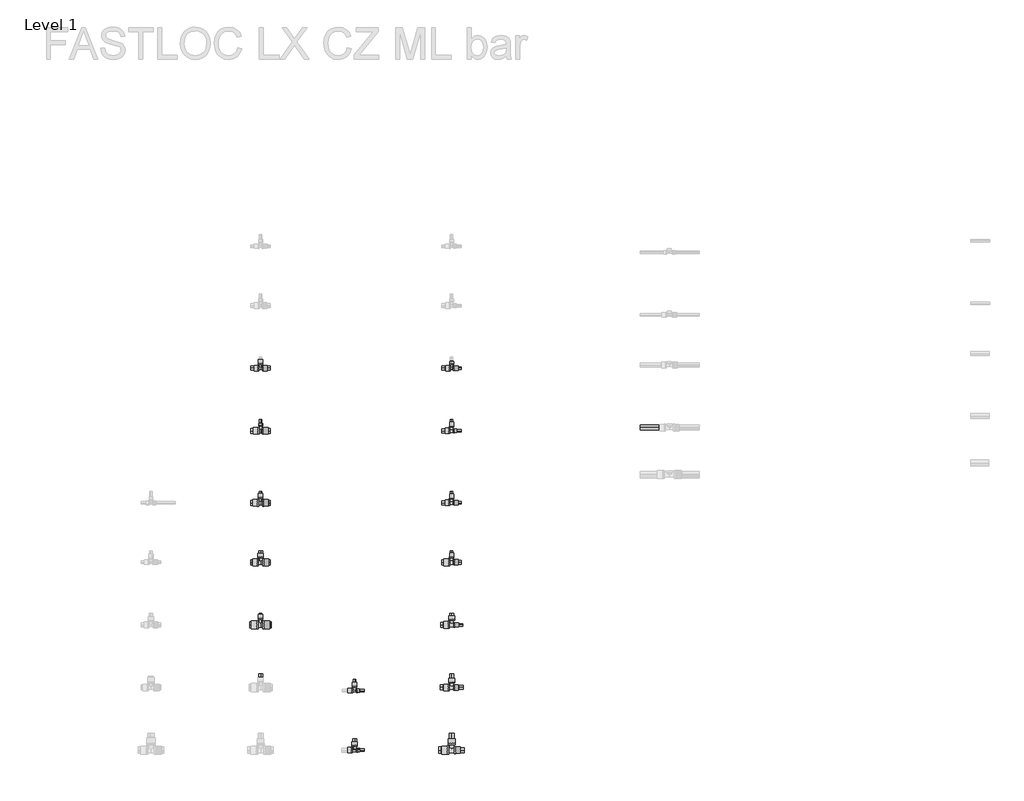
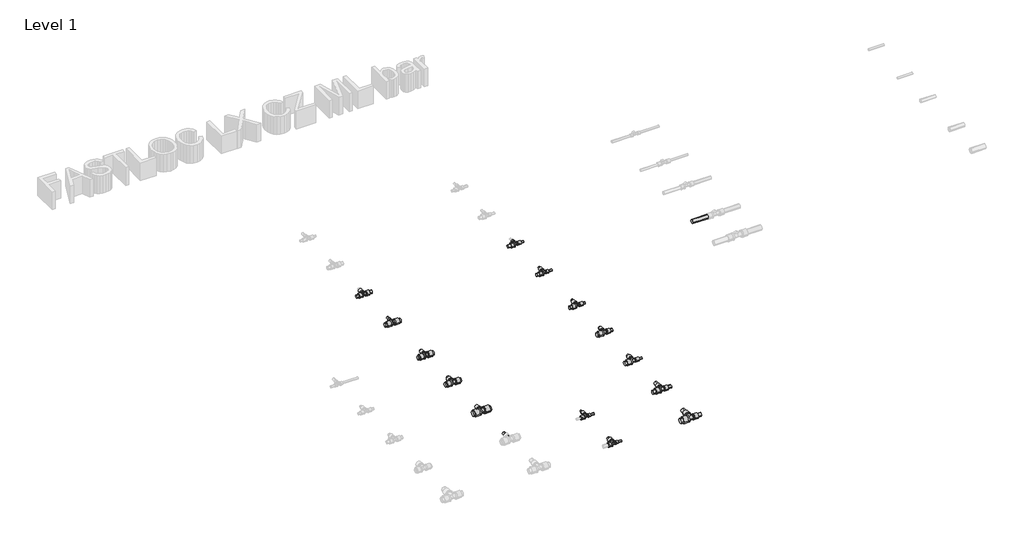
# One storey, part 29 of 78: 40 pipe segments, 14 pipe fittings.
"""IFC4 building model written with IfcOpenShell, lengths in millimetres."""

from ifc_helpers import new_model, si_unit, point, frame, frame_2d, origin, place, context, project, spatial, circle_curve, trimmed, segment, composite_curve, outline, extrude, transform, mapped, element, save
from components import pipe_fitting_7435f538, pipe_fitting_b40a3e3c, pipe_fitting_68251213, pipe_fitting_d9a56b63, pipe_fitting_a094db19, pipe_fitting_19df1a9e, pipe_fitting_16730f07, pipe_fitting_5d5decb5, pipe_fitting_f2600fd0, pipe_fitting_8d489ee2, pipe_fitting_c4e8b4db, pipe_fitting_757463f1, pipe_fitting_3bea6388, pipe_fitting_e638986c

model = new_model("IFC4")

# Units and contexts
model_context = context("Model", 3, world=origin())
ifc_project = project(units=[si_unit("LENGTHUNIT", "METRE", prefix="MILLI")], contexts=[model_context])

# Site, building, storey
site = spatial("IfcSite", under=ifc_project)
building = spatial("IfcBuilding", under=site)
storey = spatial("IfcBuildingStorey", under=building, Name="Level 1", Elevation=0.0)

# Pipe fittings
placement = place(None, origin())
pipe_fitting_shape = pipe_fitting_7435f538(model_context)
element("IfcPipeFitting", 1, ObjectType="FASTLOC_T-piece_LX : FSL T-Piece LX CZ", at=placement, inside=storey, context=model_context, shape_type="MappedRepresentation", body=[
    mapped(pipe_fitting_shape, transform((24443.8683677, -2880.2405791, 0.0), x_axis=(1.0, 0.0, 0.0), y_axis=(0.0, 1.0, 0.0), z_axis=(0.0, 0.0, 1.0))),
])
pipe_fitting_2_shape = pipe_fitting_b40a3e3c(model_context)
element("IfcPipeFitting", 2, ObjectType="FASTLOC_T-piece_LX : FSL T-Piece LX CZ", at=placement, inside=storey, context=model_context, shape_type="MappedRepresentation", body=[
    mapped(pipe_fitting_2_shape, transform((24443.8683677, -3260.2405791, 0.0), x_axis=(1.0, 0.0, 0.0), y_axis=(0.0, 1.0, 0.0), z_axis=(0.0, 0.0, 1.0))),
])
pipe_fitting_3_shape = pipe_fitting_68251213(model_context)
element("IfcPipeFitting", 3, ObjectType="FASTLOC_T-piece_LX : FSL T-Piece LX CZ", at=placement, inside=storey, context=model_context, shape_type="MappedRepresentation", body=[
    mapped(pipe_fitting_3_shape, transform((24443.8683677, -3660.2405791, 0.0), x_axis=(1.0, 0.0, 0.0), y_axis=(0.0, 1.0, 0.0), z_axis=(0.0, 0.0, 1.0))),
])
pipe_fitting_4_shape = pipe_fitting_d9a56b63(model_context)
element("IfcPipeFitting", 4, ObjectType="FASTLOC_T-piece_LX : FSL T-Piece LX CZ", at=placement, inside=storey, context=model_context, shape_type="MappedRepresentation", body=[
    mapped(pipe_fitting_4_shape, transform((24443.8683677, -2020.2405791, 0.0), x_axis=(1.0, 0.0, 0.0), y_axis=(0.0, 1.0, 0.0), z_axis=(0.0, 0.0, 1.0))),
])
pipe_fitting_5_shape = pipe_fitting_a094db19(model_context)
element("IfcPipeFitting", 5, ObjectType="FASTLOC_T-piece_LX : FSL T-Piece LX CZ", at=placement, inside=storey, context=model_context, shape_type="MappedRepresentation", body=[
    mapped(pipe_fitting_5_shape, transform((24443.8683677, -2420.2405791, 0.0), x_axis=(1.0, 0.0, 0.0), y_axis=(0.0, 1.0, 0.0), z_axis=(0.0, 0.0, 1.0))),
])
pipe_fitting_6_shape = pipe_fitting_19df1a9e(model_context)
element("IfcPipeFitting", 6, ObjectType="FASTLOC_T-piece_LX : FSL T-Piece LX CZ", at=placement, inside=storey, context=model_context, shape_type="MappedRepresentation", body=[
    mapped(pipe_fitting_6_shape, transform((25043.8683677, -4080.2405791, 0.0), x_axis=(1.0, 0.0, 0.0), y_axis=(0.0, 1.0, 0.0), z_axis=(0.0, 0.0, 1.0))),
])
pipe_fitting_7_shape = pipe_fitting_16730f07(model_context)
element("IfcPipeFitting", 7, ObjectType="FASTLOC_T-piece_LX : FSL T-Piece LX CZ", at=placement, inside=storey, context=model_context, shape_type="MappedRepresentation", body=[
    mapped(pipe_fitting_7_shape, transform((25043.8683677, -4460.2405791, 0.0), x_axis=(1.0, 0.0, 0.0), y_axis=(0.0, 1.0, 0.0), z_axis=(0.0, 0.0, 1.0))),
])
pipe_fitting_8_shape = pipe_fitting_5d5decb5(model_context)
element("IfcPipeFitting", 8, ObjectType="FASTLOC_T-piece_LX : FSL T-Piece LX CZ", at=placement, inside=storey, context=model_context, shape_type="MappedRepresentation", body=[
    mapped(pipe_fitting_8_shape, transform((25663.8683677, -2880.2405791, 0.0), x_axis=(1.0, 0.0, 0.0), y_axis=(0.0, 1.0, 0.0), z_axis=(0.0, 0.0, 1.0))),
])
pipe_fitting_9_shape = pipe_fitting_f2600fd0(model_context)
element("IfcPipeFitting", 9, ObjectType="FASTLOC_T-piece_LX : FSL T-Piece LX CZ", at=placement, inside=storey, context=model_context, shape_type="MappedRepresentation", body=[
    mapped(pipe_fitting_9_shape, transform((25663.8683677, -3260.2405791, 0.0), x_axis=(1.0, 0.0, 0.0), y_axis=(0.0, 1.0, 0.0), z_axis=(0.0, 0.0, 1.0))),
])
pipe_fitting_10_shape = pipe_fitting_8d489ee2(model_context)
element("IfcPipeFitting", 10, ObjectType="FASTLOC_T-piece_LX : FSL T-Piece LX CZ", at=placement, inside=storey, context=model_context, shape_type="MappedRepresentation", body=[
    mapped(pipe_fitting_10_shape, transform((25663.8683677, -3660.2405791, 0.0), x_axis=(1.0, 0.0, 0.0), y_axis=(0.0, 1.0, 0.0), z_axis=(0.0, 0.0, 1.0))),
])
pipe_fitting_11_shape = pipe_fitting_c4e8b4db(model_context)
element("IfcPipeFitting", 11, ObjectType="FASTLOC_T-piece_LX : FSL T-Piece LX CZ", at=placement, inside=storey, context=model_context, shape_type="MappedRepresentation", body=[
    mapped(pipe_fitting_11_shape, transform((25663.8683677, -4060.2405791, 0.0), x_axis=(1.0, 0.0, 0.0), y_axis=(0.0, 1.0, 0.0), z_axis=(0.0, 0.0, 1.0))),
])
pipe_fitting_12_shape = pipe_fitting_757463f1(model_context)
element("IfcPipeFitting", 12, ObjectType="FASTLOC_T-piece_LX : FSL T-Piece LX CZ", at=placement, inside=storey, context=model_context, shape_type="MappedRepresentation", body=[
    mapped(pipe_fitting_12_shape, transform((25663.8683677, -4460.2405791, 0.0), x_axis=(1.0, 0.0, 0.0), y_axis=(0.0, 1.0, 0.0), z_axis=(0.0, 0.0, 1.0))),
])
pipe_fitting_13_shape = pipe_fitting_3bea6388(model_context)
element("IfcPipeFitting", 13, ObjectType="FASTLOC_T-piece_LX : FSL T-Piece LX CZ", at=placement, inside=storey, context=model_context, shape_type="MappedRepresentation", body=[
    mapped(pipe_fitting_13_shape, transform((25663.8683677, -2020.2405791, 0.0), x_axis=(1.0, 0.0, 0.0), y_axis=(0.0, 1.0, 0.0), z_axis=(0.0, 0.0, 1.0))),
])
pipe_fitting_14_shape = pipe_fitting_e638986c(model_context)
element("IfcPipeFitting", 14, ObjectType="FASTLOC_T-piece_LX : FSL T-Piece LX CZ", at=placement, inside=storey, context=model_context, shape_type="MappedRepresentation", body=[
    mapped(pipe_fitting_14_shape, transform((25663.8683677, -2420.2405791, 0.0), x_axis=(1.0, 0.0, 0.0), y_axis=(0.0, 1.0, 0.0), z_axis=(0.0, 0.0, 1.0))),
])

# Pipe segments
element("IfcPipeSegment", 15, ObjectType="FASTLOC LX ML CZ bar", at=placement, inside=storey, context=model_context, shape_type="SweptSolid", body=[
    extrude(outline(composite_curve([segment(trimmed(circle_curve(frame_2d((-2880.2405791, 0.0)), 16.0), [point((-2896.2405791, 0.0))], [point((-2880.2405791, 16.0))], False, "CARTESIAN"), True, "CONTINUOUS"), segment(trimmed(circle_curve(frame_2d((-2880.2405791, 0.0)), 16.0), [point((-2880.2405791, 16.0))], [point((-2864.2405791, 0.0))], False, "CARTESIAN"), True, "CONTINUOUS"), segment(trimmed(circle_curve(frame_2d((-2880.2405791, 0.0)), 16.0), [point((-2864.2405791, 0.0))], [point((-2880.2405791, -16.0))], False, "CARTESIAN"), True, "CONTINUOUS"), segment(trimmed(circle_curve(frame_2d((-2880.2405791, 0.0)), 16.0), [point((-2880.2405791, -16.0))], [point((-2896.2405791, 0.0))], False, "CARTESIAN"), True, "CONTINUOUS")], self_intersect=False)), frame((24464.0683677, 0.0, 0.0), z_axis=(1.0, 0.0, 0.0), x_axis=(0.0, 1.0, 0.0)), (0.0, 0.0, 1.0), 41.8),
])
element("IfcPipeSegment", 16, ObjectType="FASTLOC LX ML CZ bar", at=placement, inside=storey, context=model_context, shape_type="SweptSolid", body=[
    extrude(outline(composite_curve([segment(trimmed(circle_curve(frame_2d((-2880.2405791, 0.0)), 16.0), [point((-2864.2405791, 0.0))], [point((-2880.2405791, -16.0))], False, "CARTESIAN"), True, "CONTINUOUS"), segment(trimmed(circle_curve(frame_2d((-2880.2405791, 0.0)), 16.0), [point((-2880.2405791, -16.0))], [point((-2896.2405791, 0.0))], False, "CARTESIAN"), True, "CONTINUOUS"), segment(trimmed(circle_curve(frame_2d((-2880.2405791, 0.0)), 16.0), [point((-2896.2405791, 0.0))], [point((-2880.2405791, 16.0))], False, "CARTESIAN"), True, "CONTINUOUS"), segment(trimmed(circle_curve(frame_2d((-2880.2405791, 0.0)), 16.0), [point((-2880.2405791, 16.0))], [point((-2864.2405791, 0.0))], False, "CARTESIAN"), True, "CONTINUOUS")], self_intersect=False)), frame((24381.8683677, 0.0, 0.0), z_axis=(1.0, 0.0, 0.0), x_axis=(0.0, 1.0, 0.0)), (0.0, 0.0, 1.0), 41.8),
])
element("IfcPipeSegment", 17, ObjectType="FASTLOC LX ML CZ bar", at=placement, inside=storey, context=model_context, shape_type="SweptSolid", body=[
    extrude(outline(composite_curve([segment(trimmed(circle_curve(frame_2d((0.0, 24443.8683677)), 8.0), [point((0.0, 24451.8683677))], [point((8.0, 24443.8683677))], False, "CARTESIAN"), True, "CONTINUOUS"), segment(trimmed(circle_curve(frame_2d((0.0, 24443.8683677)), 8.0), [point((8.0, 24443.8683677))], [point((0.0, 24435.8683677))], False, "CARTESIAN"), True, "CONTINUOUS"), segment(trimmed(circle_curve(frame_2d((0.0, 24443.8683677)), 8.0), [point((0.0, 24435.8683677))], [point((-8.0, 24443.8683677))], False, "CARTESIAN"), True, "CONTINUOUS"), segment(trimmed(circle_curve(frame_2d((0.0, 24443.8683677)), 8.0), [point((-8.0, 24443.8683677))], [point((0.0, 24451.8683677))], False, "CARTESIAN"), True, "CONTINUOUS")], self_intersect=False)), frame((0.0, -2846.2405791, 0.0), z_axis=(0.0, 1.0, 0.0), x_axis=(0.0, 0.0, 1.0)), (0.0, 0.0, 1.0), 38.3),
])
element("IfcPipeSegment", 18, ObjectType="FASTLOC LX ML CZ bar", at=placement, inside=storey, context=model_context, shape_type="SweptSolid", body=[
    extrude(outline(composite_curve([segment(trimmed(circle_curve(frame_2d((-3260.2405791, 0.0)), 16.0), [point((-3276.2405791, 0.0))], [point((-3260.2405791, 16.0))], False, "CARTESIAN"), True, "CONTINUOUS"), segment(trimmed(circle_curve(frame_2d((-3260.2405791, 0.0)), 16.0), [point((-3260.2405791, 16.0))], [point((-3244.2405791, 0.0))], False, "CARTESIAN"), True, "CONTINUOUS"), segment(trimmed(circle_curve(frame_2d((-3260.2405791, 0.0)), 16.0), [point((-3244.2405791, 0.0))], [point((-3260.2405791, -16.0))], False, "CARTESIAN"), True, "CONTINUOUS"), segment(trimmed(circle_curve(frame_2d((-3260.2405791, 0.0)), 16.0), [point((-3260.2405791, -16.0))], [point((-3276.2405791, 0.0))], False, "CARTESIAN"), True, "CONTINUOUS")], self_intersect=False)), frame((24465.8683677, 0.0, 0.0), z_axis=(1.0, 0.0, 0.0), x_axis=(0.0, 1.0, 0.0)), (0.0, 0.0, 1.0), 40.0),
])
element("IfcPipeSegment", 19, ObjectType="FASTLOC LX ML CZ bar", at=placement, inside=storey, context=model_context, shape_type="SweptSolid", body=[
    extrude(outline(composite_curve([segment(trimmed(circle_curve(frame_2d((-3260.2405791, 0.0)), 16.0), [point((-3244.2405791, 0.0))], [point((-3260.2405791, -16.0))], False, "CARTESIAN"), True, "CONTINUOUS"), segment(trimmed(circle_curve(frame_2d((-3260.2405791, 0.0)), 16.0), [point((-3260.2405791, -16.0))], [point((-3276.2405791, 0.0))], False, "CARTESIAN"), True, "CONTINUOUS"), segment(trimmed(circle_curve(frame_2d((-3260.2405791, 0.0)), 16.0), [point((-3276.2405791, 0.0))], [point((-3260.2405791, 16.0))], False, "CARTESIAN"), True, "CONTINUOUS"), segment(trimmed(circle_curve(frame_2d((-3260.2405791, 0.0)), 16.0), [point((-3260.2405791, 16.0))], [point((-3244.2405791, 0.0))], False, "CARTESIAN"), True, "CONTINUOUS")], self_intersect=False)), frame((24381.8683677, 0.0, 0.0), z_axis=(1.0, 0.0, 0.0), x_axis=(0.0, 1.0, 0.0)), (0.0, 0.0, 1.0), 40.0),
])
element("IfcPipeSegment", 20, ObjectType="FASTLOC LX ML CZ bar", at=placement, inside=storey, context=model_context, shape_type="SweptSolid", body=[
    extrude(outline(composite_curve([segment(trimmed(circle_curve(frame_2d((0.0, 24443.8683677)), 12.5), [point((0.0, 24456.3683677))], [point((12.5, 24443.8683677))], False, "CARTESIAN"), True, "CONTINUOUS"), segment(trimmed(circle_curve(frame_2d((0.0, 24443.8683677)), 12.5), [point((12.5, 24443.8683677))], [point((0.0, 24431.3683677))], False, "CARTESIAN"), True, "CONTINUOUS"), segment(trimmed(circle_curve(frame_2d((0.0, 24443.8683677)), 12.5), [point((0.0, 24431.3683677))], [point((-12.5, 24443.8683677))], False, "CARTESIAN"), True, "CONTINUOUS"), segment(trimmed(circle_curve(frame_2d((0.0, 24443.8683677)), 12.5), [point((-12.5, 24443.8683677))], [point((0.0, 24456.3683677))], False, "CARTESIAN"), True, "CONTINUOUS")], self_intersect=False)), frame((0.0, -3225.8405791, 0.0), z_axis=(0.0, 1.0, 0.0), x_axis=(0.0, 0.0, 1.0)), (0.0, 0.0, 1.0), 37.9),
])
element("IfcPipeSegment", 21, ObjectType="FASTLOC LX ML CZ bar", at=placement, inside=storey, context=model_context, shape_type="SweptSolid", body=[
    extrude(outline(composite_curve([segment(trimmed(circle_curve(frame_2d((-3660.2405791, 0.0)), 20.0), [point((-3680.2405791, 0.0))], [point((-3660.2405791, 20.0))], False, "CARTESIAN"), True, "CONTINUOUS"), segment(trimmed(circle_curve(frame_2d((-3660.2405791, 0.0)), 20.0), [point((-3660.2405791, 20.0))], [point((-3640.2405791, 0.0))], False, "CARTESIAN"), True, "CONTINUOUS"), segment(trimmed(circle_curve(frame_2d((-3660.2405791, 0.0)), 20.0), [point((-3640.2405791, 0.0))], [point((-3660.2405791, -20.0))], False, "CARTESIAN"), True, "CONTINUOUS"), segment(trimmed(circle_curve(frame_2d((-3660.2405791, 0.0)), 20.0), [point((-3660.2405791, -20.0))], [point((-3680.2405791, 0.0))], False, "CARTESIAN"), True, "CONTINUOUS")], self_intersect=False)), frame((24467.8683677, 0.0, 0.0), z_axis=(1.0, 0.0, 0.0), x_axis=(0.0, 1.0, 0.0)), (0.0, 0.0, 1.0), 45.0),
])
element("IfcPipeSegment", 22, ObjectType="FASTLOC LX ML CZ bar", at=placement, inside=storey, context=model_context, shape_type="SweptSolid", body=[
    extrude(outline(composite_curve([segment(trimmed(circle_curve(frame_2d((-3660.2405791, 0.0)), 20.0), [point((-3640.2405791, 0.0))], [point((-3660.2405791, -20.0))], False, "CARTESIAN"), True, "CONTINUOUS"), segment(trimmed(circle_curve(frame_2d((-3660.2405791, 0.0)), 20.0), [point((-3660.2405791, -20.0))], [point((-3680.2405791, 0.0))], False, "CARTESIAN"), True, "CONTINUOUS"), segment(trimmed(circle_curve(frame_2d((-3660.2405791, 0.0)), 20.0), [point((-3680.2405791, 0.0))], [point((-3660.2405791, 20.0))], False, "CARTESIAN"), True, "CONTINUOUS"), segment(trimmed(circle_curve(frame_2d((-3660.2405791, 0.0)), 20.0), [point((-3660.2405791, 20.0))], [point((-3640.2405791, 0.0))], False, "CARTESIAN"), True, "CONTINUOUS")], self_intersect=False)), frame((24374.8683677, 0.0, 0.0), z_axis=(1.0, 0.0, 0.0), x_axis=(0.0, 1.0, 0.0)), (0.0, 0.0, 1.0), 45.0),
])
element("IfcPipeSegment", 23, ObjectType="FASTLOC LX ML CZ bar", at=placement, inside=storey, context=model_context, shape_type="SweptSolid", body=[
    extrude(outline(composite_curve([segment(trimmed(circle_curve(frame_2d((0.0, 24443.8683677)), 8.0), [point((0.0, 24451.8683677))], [point((8.0, 24443.8683677))], False, "CARTESIAN"), True, "CONTINUOUS"), segment(trimmed(circle_curve(frame_2d((0.0, 24443.8683677)), 8.0), [point((8.0, 24443.8683677))], [point((0.0, 24435.8683677))], False, "CARTESIAN"), True, "CONTINUOUS"), segment(trimmed(circle_curve(frame_2d((0.0, 24443.8683677)), 8.0), [point((0.0, 24435.8683677))], [point((-8.0, 24443.8683677))], False, "CARTESIAN"), True, "CONTINUOUS"), segment(trimmed(circle_curve(frame_2d((0.0, 24443.8683677)), 8.0), [point((-8.0, 24443.8683677))], [point((0.0, 24451.8683677))], False, "CARTESIAN"), True, "CONTINUOUS")], self_intersect=False)), frame((0.0, -3619.7405791, 0.0), z_axis=(0.0, 1.0, 0.0), x_axis=(0.0, 0.0, 1.0)), (0.0, 0.0, 1.0), 31.8),
])
element("IfcPipeSegment", 24, ObjectType="FASTLOC LX ML CZ bar", at=placement, inside=storey, context=model_context, shape_type="SweptSolid", body=[
    extrude(outline(composite_curve([segment(trimmed(circle_curve(frame_2d((0.0, 24443.8683677)), 12.5), [point((0.0, 24456.3683677))], [point((12.5, 24443.8683677))], False, "CARTESIAN"), True, "CONTINUOUS"), segment(trimmed(circle_curve(frame_2d((0.0, 24443.8683677)), 12.5), [point((12.5, 24443.8683677))], [point((0.0, 24431.3683677))], False, "CARTESIAN"), True, "CONTINUOUS"), segment(trimmed(circle_curve(frame_2d((0.0, 24443.8683677)), 12.5), [point((0.0, 24431.3683677))], [point((-12.5, 24443.8683677))], False, "CARTESIAN"), True, "CONTINUOUS"), segment(trimmed(circle_curve(frame_2d((0.0, 24443.8683677)), 12.5), [point((-12.5, 24443.8683677))], [point((0.0, 24456.3683677))], False, "CARTESIAN"), True, "CONTINUOUS")], self_intersect=False)), frame((0.0, -4019.2405791, 0.0), z_axis=(0.0, 1.0, 0.0), x_axis=(0.0, 0.0, 1.0)), (0.0, 0.0, 1.0), 46.8),
])
element("IfcPipeSegment", 25, ObjectType="FASTLOC LX ML CZ bar", at=placement, inside=storey, context=model_context, shape_type="SweptSolid", body=[
    extrude(outline(composite_curve([segment(trimmed(circle_curve(frame_2d((-2020.2405791, 0.0)), 12.5), [point((-2032.7405791, 0.0))], [point((-2020.2405791, 12.5))], False, "CARTESIAN"), True, "CONTINUOUS"), segment(trimmed(circle_curve(frame_2d((-2020.2405791, 0.0)), 12.5), [point((-2020.2405791, 12.5))], [point((-2007.7405791, 0.0))], False, "CARTESIAN"), True, "CONTINUOUS"), segment(trimmed(circle_curve(frame_2d((-2020.2405791, 0.0)), 12.5), [point((-2007.7405791, 0.0))], [point((-2020.2405791, -12.5))], False, "CARTESIAN"), True, "CONTINUOUS"), segment(trimmed(circle_curve(frame_2d((-2020.2405791, 0.0)), 12.5), [point((-2020.2405791, -12.5))], [point((-2032.7405791, 0.0))], False, "CARTESIAN"), True, "CONTINUOUS")], self_intersect=False)), frame((24461.9683677, 0.0, 0.0), z_axis=(1.0, 0.0, 0.0), x_axis=(0.0, 1.0, 0.0)), (0.0, 0.0, 1.0), 43.9),
])
element("IfcPipeSegment", 26, ObjectType="FASTLOC LX ML CZ bar", at=placement, inside=storey, context=model_context, shape_type="SweptSolid", body=[
    extrude(outline(composite_curve([segment(trimmed(circle_curve(frame_2d((-2020.2405791, 0.0)), 12.5), [point((-2007.7405791, 0.0))], [point((-2020.2405791, -12.5))], False, "CARTESIAN"), True, "CONTINUOUS"), segment(trimmed(circle_curve(frame_2d((-2020.2405791, 0.0)), 12.5), [point((-2020.2405791, -12.5))], [point((-2032.7405791, 0.0))], False, "CARTESIAN"), True, "CONTINUOUS"), segment(trimmed(circle_curve(frame_2d((-2020.2405791, 0.0)), 12.5), [point((-2032.7405791, 0.0))], [point((-2020.2405791, 12.5))], False, "CARTESIAN"), True, "CONTINUOUS"), segment(trimmed(circle_curve(frame_2d((-2020.2405791, 0.0)), 12.5), [point((-2020.2405791, 12.5))], [point((-2007.7405791, 0.0))], False, "CARTESIAN"), True, "CONTINUOUS")], self_intersect=False)), frame((24381.8683677, 0.0, 0.0), z_axis=(1.0, 0.0, 0.0), x_axis=(0.0, 1.0, 0.0)), (0.0, 0.0, 1.0), 43.9),
])
element("IfcPipeSegment", 27, ObjectType="FASTLOC LX ML CZ bar", at=placement, inside=storey, context=model_context, shape_type="SweptSolid", body=[
    extrude(outline(composite_curve([segment(trimmed(circle_curve(frame_2d((-2420.2405791, 0.0)), 16.0), [point((-2436.2405791, 0.0))], [point((-2420.2405791, 16.0))], False, "CARTESIAN"), True, "CONTINUOUS"), segment(trimmed(circle_curve(frame_2d((-2420.2405791, 0.0)), 16.0), [point((-2420.2405791, 16.0))], [point((-2404.2405791, 0.0))], False, "CARTESIAN"), True, "CONTINUOUS"), segment(trimmed(circle_curve(frame_2d((-2420.2405791, 0.0)), 16.0), [point((-2404.2405791, 0.0))], [point((-2420.2405791, -16.0))], False, "CARTESIAN"), True, "CONTINUOUS"), segment(trimmed(circle_curve(frame_2d((-2420.2405791, 0.0)), 16.0), [point((-2420.2405791, -16.0))], [point((-2436.2405791, 0.0))], False, "CARTESIAN"), True, "CONTINUOUS")], self_intersect=False)), frame((24462.1683677, 0.0, 0.0), z_axis=(1.0, 0.0, 0.0), x_axis=(0.0, 1.0, 0.0)), (0.0, 0.0, 1.0), 43.7),
])
element("IfcPipeSegment", 28, ObjectType="FASTLOC LX ML CZ bar", at=placement, inside=storey, context=model_context, shape_type="SweptSolid", body=[
    extrude(outline(composite_curve([segment(trimmed(circle_curve(frame_2d((-2420.2405791, 0.0)), 16.0), [point((-2404.2405791, 0.0))], [point((-2420.2405791, -16.0))], False, "CARTESIAN"), True, "CONTINUOUS"), segment(trimmed(circle_curve(frame_2d((-2420.2405791, 0.0)), 16.0), [point((-2420.2405791, -16.0))], [point((-2436.2405791, 0.0))], False, "CARTESIAN"), True, "CONTINUOUS"), segment(trimmed(circle_curve(frame_2d((-2420.2405791, 0.0)), 16.0), [point((-2436.2405791, 0.0))], [point((-2420.2405791, 16.0))], False, "CARTESIAN"), True, "CONTINUOUS"), segment(trimmed(circle_curve(frame_2d((-2420.2405791, 0.0)), 16.0), [point((-2420.2405791, 16.0))], [point((-2404.2405791, 0.0))], False, "CARTESIAN"), True, "CONTINUOUS")], self_intersect=False)), frame((24381.8683677, 0.0, 0.0), z_axis=(1.0, 0.0, 0.0), x_axis=(0.0, 1.0, 0.0)), (0.0, 0.0, 1.0), 43.7),
])
element("IfcPipeSegment", 29, ObjectType="FASTLOC LX ML CZ bar", at=placement, inside=storey, context=model_context, shape_type="SweptSolid", body=[
    extrude(outline(composite_curve([segment(trimmed(circle_curve(frame_2d((0.0, 24443.8683677)), 8.0), [point((0.0, 24451.8683677))], [point((8.0, 24443.8683677))], False, "CARTESIAN"), True, "CONTINUOUS"), segment(trimmed(circle_curve(frame_2d((0.0, 24443.8683677)), 8.0), [point((8.0, 24443.8683677))], [point((0.0, 24435.8683677))], False, "CARTESIAN"), True, "CONTINUOUS"), segment(trimmed(circle_curve(frame_2d((0.0, 24443.8683677)), 8.0), [point((0.0, 24435.8683677))], [point((-8.0, 24443.8683677))], False, "CARTESIAN"), True, "CONTINUOUS"), segment(trimmed(circle_curve(frame_2d((0.0, 24443.8683677)), 8.0), [point((-8.0, 24443.8683677))], [point((0.0, 24451.8683677))], False, "CARTESIAN"), True, "CONTINUOUS")], self_intersect=False)), frame((0.0, -2386.3405791, 0.0), z_axis=(0.0, 1.0, 0.0), x_axis=(0.0, 0.0, 1.0)), (0.0, 0.0, 1.0), 38.4),
])
element("IfcPipeSegment", 30, ObjectType="FASTLOC LX ML CZ bar", at=placement, inside=storey, context=model_context, shape_type="SweptSolid", body=[
    extrude(outline(composite_curve([segment(trimmed(circle_curve(frame_2d((-4080.2405791, 0.0)), 8.0), [point((-4088.2405791, 0.0))], [point((-4080.2405791, 8.0))], False, "CARTESIAN"), True, "CONTINUOUS"), segment(trimmed(circle_curve(frame_2d((-4080.2405791, 0.0)), 8.0), [point((-4080.2405791, 8.0))], [point((-4072.2405791, 0.0))], False, "CARTESIAN"), True, "CONTINUOUS"), segment(trimmed(circle_curve(frame_2d((-4080.2405791, 0.0)), 8.0), [point((-4072.2405791, 0.0))], [point((-4080.2405791, -8.0))], False, "CARTESIAN"), True, "CONTINUOUS"), segment(trimmed(circle_curve(frame_2d((-4080.2405791, 0.0)), 8.0), [point((-4080.2405791, -8.0))], [point((-4088.2405791, 0.0))], False, "CARTESIAN"), True, "CONTINUOUS")], self_intersect=False)), frame((25060.8683677, 0.0, 0.0), z_axis=(1.0, 0.0, 0.0), x_axis=(0.0, 1.0, 0.0)), (0.0, 0.0, 1.0), 45.0),
])
element("IfcPipeSegment", 31, ObjectType="FASTLOC LX ML CZ bar", at=placement, inside=storey, context=model_context, shape_type="SweptSolid", body=[
    extrude(outline(composite_curve([segment(trimmed(circle_curve(frame_2d((0.0, 25043.8683677)), 8.0), [point((0.0, 25051.8683677))], [point((8.0, 25043.8683677))], False, "CARTESIAN"), True, "CONTINUOUS"), segment(trimmed(circle_curve(frame_2d((0.0, 25043.8683677)), 8.0), [point((8.0, 25043.8683677))], [point((0.0, 25035.8683677))], False, "CARTESIAN"), True, "CONTINUOUS"), segment(trimmed(circle_curve(frame_2d((0.0, 25043.8683677)), 8.0), [point((0.0, 25035.8683677))], [point((-8.0, 25043.8683677))], False, "CARTESIAN"), True, "CONTINUOUS"), segment(trimmed(circle_curve(frame_2d((0.0, 25043.8683677)), 8.0), [point((-8.0, 25043.8683677))], [point((0.0, 25051.8683677))], False, "CARTESIAN"), True, "CONTINUOUS")], self_intersect=False)), frame((0.0, -4053.8405791, 0.0), z_axis=(0.0, 1.0, 0.0), x_axis=(0.0, 0.0, 1.0)), (0.0, 0.0, 1.0), 45.9),
])
element("IfcPipeSegment", 32, ObjectType="FASTLOC LX ML CZ bar", at=placement, inside=storey, context=model_context, shape_type="SweptSolid", body=[
    extrude(outline(composite_curve([segment(trimmed(circle_curve(frame_2d((-4460.2405791, 0.0)), 8.0), [point((-4468.2405791, 0.0))], [point((-4460.2405791, 8.0))], False, "CARTESIAN"), True, "CONTINUOUS"), segment(trimmed(circle_curve(frame_2d((-4460.2405791, 0.0)), 8.0), [point((-4460.2405791, 8.0))], [point((-4452.2405791, 0.0))], False, "CARTESIAN"), True, "CONTINUOUS"), segment(trimmed(circle_curve(frame_2d((-4460.2405791, 0.0)), 8.0), [point((-4452.2405791, 0.0))], [point((-4460.2405791, -8.0))], False, "CARTESIAN"), True, "CONTINUOUS"), segment(trimmed(circle_curve(frame_2d((-4460.2405791, 0.0)), 8.0), [point((-4460.2405791, -8.0))], [point((-4468.2405791, 0.0))], False, "CARTESIAN"), True, "CONTINUOUS")], self_intersect=False)), frame((25062.6683677, 0.0, 0.0), z_axis=(1.0, 0.0, 0.0), x_axis=(0.0, 1.0, 0.0)), (0.0, 0.0, 1.0), 43.2),
])
element("IfcPipeSegment", 33, ObjectType="FASTLOC LX ML CZ bar", at=placement, inside=storey, context=model_context, shape_type="SweptSolid", body=[
    extrude(outline(composite_curve([segment(trimmed(circle_curve(frame_2d((0.0, 25043.8683677)), 12.5), [point((0.0, 25056.3683677))], [point((12.5, 25043.8683677))], False, "CARTESIAN"), True, "CONTINUOUS"), segment(trimmed(circle_curve(frame_2d((0.0, 25043.8683677)), 12.5), [point((12.5, 25043.8683677))], [point((0.0, 25031.3683677))], False, "CARTESIAN"), True, "CONTINUOUS"), segment(trimmed(circle_curve(frame_2d((0.0, 25043.8683677)), 12.5), [point((0.0, 25031.3683677))], [point((-12.5, 25043.8683677))], False, "CARTESIAN"), True, "CONTINUOUS"), segment(trimmed(circle_curve(frame_2d((0.0, 25043.8683677)), 12.5), [point((-12.5, 25043.8683677))], [point((0.0, 25056.3683677))], False, "CARTESIAN"), True, "CONTINUOUS")], self_intersect=False)), frame((0.0, -4430.7405791, 0.0), z_axis=(0.0, 1.0, 0.0), x_axis=(0.0, 0.0, 1.0)), (0.0, 0.0, 1.0), 42.8),
])
element("IfcPipeSegment", 34, ObjectType="FASTLOC LX ML CZ bar", at=placement, inside=storey, context=model_context, shape_type="SweptSolid", body=[
    extrude(outline(composite_curve([segment(trimmed(circle_curve(frame_2d((-2880.2405791, 0.0)), 8.0), [point((-2888.2405791, 0.0))], [point((-2880.2405791, 8.0))], False, "CARTESIAN"), True, "CONTINUOUS"), segment(trimmed(circle_curve(frame_2d((-2880.2405791, 0.0)), 8.0), [point((-2880.2405791, 8.0))], [point((-2872.2405791, 0.0))], False, "CARTESIAN"), True, "CONTINUOUS"), segment(trimmed(circle_curve(frame_2d((-2880.2405791, 0.0)), 8.0), [point((-2872.2405791, 0.0))], [point((-2880.2405791, -8.0))], False, "CARTESIAN"), True, "CONTINUOUS"), segment(trimmed(circle_curve(frame_2d((-2880.2405791, 0.0)), 8.0), [point((-2880.2405791, -8.0))], [point((-2888.2405791, 0.0))], False, "CARTESIAN"), True, "CONTINUOUS")], self_intersect=False)), frame((25681.2683677, 0.0, 0.0), z_axis=(1.0, 0.0, 0.0), x_axis=(0.0, 1.0, 0.0)), (0.0, 0.0, 1.0), 44.6),
])
element("IfcPipeSegment", 35, ObjectType="FASTLOC LX ML CZ bar", at=placement, inside=storey, context=model_context, shape_type="SweptSolid", body=[
    extrude(outline(composite_curve([segment(trimmed(circle_curve(frame_2d((-2880.2405791, 0.0)), 12.5), [point((-2867.7405791, 0.0))], [point((-2880.2405791, -12.5))], False, "CARTESIAN"), True, "CONTINUOUS"), segment(trimmed(circle_curve(frame_2d((-2880.2405791, 0.0)), 12.5), [point((-2880.2405791, -12.5))], [point((-2892.7405791, 0.0))], False, "CARTESIAN"), True, "CONTINUOUS"), segment(trimmed(circle_curve(frame_2d((-2880.2405791, 0.0)), 12.5), [point((-2892.7405791, 0.0))], [point((-2880.2405791, 12.5))], False, "CARTESIAN"), True, "CONTINUOUS"), segment(trimmed(circle_curve(frame_2d((-2880.2405791, 0.0)), 12.5), [point((-2880.2405791, 12.5))], [point((-2867.7405791, 0.0))], False, "CARTESIAN"), True, "CONTINUOUS")], self_intersect=False)), frame((25601.8683677, 0.0, 0.0), z_axis=(1.0, 0.0, 0.0), x_axis=(0.0, 1.0, 0.0)), (0.0, 0.0, 1.0), 43.7),
])
element("IfcPipeSegment", 36, ObjectType="FASTLOC LX ML CZ bar", at=placement, inside=storey, context=model_context, shape_type="SweptSolid", body=[
    extrude(outline(composite_curve([segment(trimmed(circle_curve(frame_2d((0.0, 25663.8683677)), 8.0), [point((0.0, 25671.8683677))], [point((8.0, 25663.8683677))], False, "CARTESIAN"), True, "CONTINUOUS"), segment(trimmed(circle_curve(frame_2d((0.0, 25663.8683677)), 8.0), [point((8.0, 25663.8683677))], [point((0.0, 25655.8683677))], False, "CARTESIAN"), True, "CONTINUOUS"), segment(trimmed(circle_curve(frame_2d((0.0, 25663.8683677)), 8.0), [point((0.0, 25655.8683677))], [point((-8.0, 25663.8683677))], False, "CARTESIAN"), True, "CONTINUOUS"), segment(trimmed(circle_curve(frame_2d((0.0, 25663.8683677)), 8.0), [point((-8.0, 25663.8683677))], [point((0.0, 25671.8683677))], False, "CARTESIAN"), True, "CONTINUOUS")], self_intersect=False)), frame((0.0, -2851.0405791, 0.0), z_axis=(0.0, 1.0, 0.0), x_axis=(0.0, 0.0, 1.0)), (0.0, 0.0, 1.0), 43.1),
])
element("IfcPipeSegment", 37, ObjectType="FASTLOC LX ML CZ bar", at=placement, inside=storey, context=model_context, shape_type="SweptSolid", body=[
    extrude(outline(composite_curve([segment(trimmed(circle_curve(frame_2d((-3260.2405791, 0.0)), 12.5), [point((-3272.7405791, 0.0))], [point((-3260.2405791, 12.5))], False, "CARTESIAN"), True, "CONTINUOUS"), segment(trimmed(circle_curve(frame_2d((-3260.2405791, 0.0)), 12.5), [point((-3260.2405791, 12.5))], [point((-3247.7405791, 0.0))], False, "CARTESIAN"), True, "CONTINUOUS"), segment(trimmed(circle_curve(frame_2d((-3260.2405791, 0.0)), 12.5), [point((-3247.7405791, 0.0))], [point((-3260.2405791, -12.5))], False, "CARTESIAN"), True, "CONTINUOUS"), segment(trimmed(circle_curve(frame_2d((-3260.2405791, 0.0)), 12.5), [point((-3260.2405791, -12.5))], [point((-3272.7405791, 0.0))], False, "CARTESIAN"), True, "CONTINUOUS")], self_intersect=False)), frame((25682.1683677, 0.0, 0.0), z_axis=(1.0, 0.0, 0.0), x_axis=(0.0, 1.0, 0.0)), (0.0, 0.0, 1.0), 43.7),
])
element("IfcPipeSegment", 38, ObjectType="FASTLOC LX ML CZ bar", at=placement, inside=storey, context=model_context, shape_type="SweptSolid", body=[
    extrude(outline(composite_curve([segment(trimmed(circle_curve(frame_2d((-3260.2405791, 0.0)), 16.0), [point((-3244.2405791, 0.0))], [point((-3260.2405791, -16.0))], False, "CARTESIAN"), True, "CONTINUOUS"), segment(trimmed(circle_curve(frame_2d((-3260.2405791, 0.0)), 16.0), [point((-3260.2405791, -16.0))], [point((-3276.2405791, 0.0))], False, "CARTESIAN"), True, "CONTINUOUS"), segment(trimmed(circle_curve(frame_2d((-3260.2405791, 0.0)), 16.0), [point((-3276.2405791, 0.0))], [point((-3260.2405791, 16.0))], False, "CARTESIAN"), True, "CONTINUOUS"), segment(trimmed(circle_curve(frame_2d((-3260.2405791, 0.0)), 16.0), [point((-3260.2405791, 16.0))], [point((-3244.2405791, 0.0))], False, "CARTESIAN"), True, "CONTINUOUS")], self_intersect=False)), frame((25601.8683677, 0.0, 0.0), z_axis=(1.0, 0.0, 0.0), x_axis=(0.0, 1.0, 0.0)), (0.0, 0.0, 1.0), 41.7),
])
element("IfcPipeSegment", 39, ObjectType="FASTLOC LX ML CZ bar", at=placement, inside=storey, context=model_context, shape_type="SweptSolid", body=[
    extrude(outline(composite_curve([segment(trimmed(circle_curve(frame_2d((0.0, 25663.8683677)), 8.0), [point((0.0, 25671.8683677))], [point((8.0, 25663.8683677))], False, "CARTESIAN"), True, "CONTINUOUS"), segment(trimmed(circle_curve(frame_2d((0.0, 25663.8683677)), 8.0), [point((8.0, 25663.8683677))], [point((0.0, 25655.8683677))], False, "CARTESIAN"), True, "CONTINUOUS"), segment(trimmed(circle_curve(frame_2d((0.0, 25663.8683677)), 8.0), [point((0.0, 25655.8683677))], [point((-8.0, 25663.8683677))], False, "CARTESIAN"), True, "CONTINUOUS"), segment(trimmed(circle_curve(frame_2d((0.0, 25663.8683677)), 8.0), [point((-8.0, 25663.8683677))], [point((0.0, 25671.8683677))], False, "CARTESIAN"), True, "CONTINUOUS")], self_intersect=False)), frame((0.0, -3226.2405791, 0.0), z_axis=(0.0, 1.0, 0.0), x_axis=(0.0, 0.0, 1.0)), (0.0, 0.0, 1.0), 38.3),
])
element("IfcPipeSegment", 40, ObjectType="FASTLOC LX ML CZ bar", at=placement, inside=storey, context=model_context, shape_type="SweptSolid", body=[
    extrude(outline(composite_curve([segment(trimmed(circle_curve(frame_2d((-3660.2405791, 0.0)), 8.0), [point((-3668.2405791, 0.0))], [point((-3660.2405791, 8.0))], False, "CARTESIAN"), True, "CONTINUOUS"), segment(trimmed(circle_curve(frame_2d((-3660.2405791, 0.0)), 8.0), [point((-3660.2405791, 8.0))], [point((-3652.2405791, 0.0))], False, "CARTESIAN"), True, "CONTINUOUS"), segment(trimmed(circle_curve(frame_2d((-3660.2405791, 0.0)), 8.0), [point((-3652.2405791, 0.0))], [point((-3660.2405791, -8.0))], False, "CARTESIAN"), True, "CONTINUOUS"), segment(trimmed(circle_curve(frame_2d((-3660.2405791, 0.0)), 8.0), [point((-3660.2405791, -8.0))], [point((-3668.2405791, 0.0))], False, "CARTESIAN"), True, "CONTINUOUS")], self_intersect=False)), frame((25683.0683677, 0.0, 0.0), z_axis=(1.0, 0.0, 0.0), x_axis=(0.0, 1.0, 0.0)), (0.0, 0.0, 1.0), 49.8),
])
element("IfcPipeSegment", 41, ObjectType="FASTLOC LX ML CZ bar", at=placement, inside=storey, context=model_context, shape_type="SweptSolid", body=[
    extrude(outline(composite_curve([segment(trimmed(circle_curve(frame_2d((-3660.2405791, 0.0)), 16.0), [point((-3644.2405791, 0.0))], [point((-3660.2405791, -16.0))], False, "CARTESIAN"), True, "CONTINUOUS"), segment(trimmed(circle_curve(frame_2d((-3660.2405791, 0.0)), 16.0), [point((-3660.2405791, -16.0))], [point((-3676.2405791, 0.0))], False, "CARTESIAN"), True, "CONTINUOUS"), segment(trimmed(circle_curve(frame_2d((-3660.2405791, 0.0)), 16.0), [point((-3676.2405791, 0.0))], [point((-3660.2405791, 16.0))], False, "CARTESIAN"), True, "CONTINUOUS"), segment(trimmed(circle_curve(frame_2d((-3660.2405791, 0.0)), 16.0), [point((-3660.2405791, 16.0))], [point((-3644.2405791, 0.0))], False, "CARTESIAN"), True, "CONTINUOUS")], self_intersect=False)), frame((25594.8683677, 0.0, 0.0), z_axis=(1.0, 0.0, 0.0), x_axis=(0.0, 1.0, 0.0)), (0.0, 0.0, 1.0), 46.9),
])
element("IfcPipeSegment", 42, ObjectType="FASTLOC LX ML CZ bar", at=placement, inside=storey, context=model_context, shape_type="SweptSolid", body=[
    extrude(outline(composite_curve([segment(trimmed(circle_curve(frame_2d((0.0, 25663.8683677)), 12.5), [point((0.0, 25676.3683677))], [point((12.5, 25663.8683677))], False, "CARTESIAN"), True, "CONTINUOUS"), segment(trimmed(circle_curve(frame_2d((0.0, 25663.8683677)), 12.5), [point((12.5, 25663.8683677))], [point((0.0, 25651.3683677))], False, "CARTESIAN"), True, "CONTINUOUS"), segment(trimmed(circle_curve(frame_2d((0.0, 25663.8683677)), 12.5), [point((0.0, 25651.3683677))], [point((-12.5, 25663.8683677))], False, "CARTESIAN"), True, "CONTINUOUS"), segment(trimmed(circle_curve(frame_2d((0.0, 25663.8683677)), 12.5), [point((-12.5, 25663.8683677))], [point((0.0, 25676.3683677))], False, "CARTESIAN"), True, "CONTINUOUS")], self_intersect=False)), frame((0.0, -3625.8405791, 0.0), z_axis=(0.0, 1.0, 0.0), x_axis=(0.0, 0.0, 1.0)), (0.0, 0.0, 1.0), 37.9),
])
element("IfcPipeSegment", 43, ObjectType="FASTLOC LX ML CZ bar", at=placement, inside=storey, context=model_context, shape_type="SweptSolid", body=[
    extrude(outline(composite_curve([segment(trimmed(circle_curve(frame_2d((-4060.2405791, 0.0)), 12.5), [point((-4072.7405791, 0.0))], [point((-4060.2405791, 12.5))], False, "CARTESIAN"), True, "CONTINUOUS"), segment(trimmed(circle_curve(frame_2d((-4060.2405791, 0.0)), 12.5), [point((-4060.2405791, 12.5))], [point((-4047.7405791, 0.0))], False, "CARTESIAN"), True, "CONTINUOUS"), segment(trimmed(circle_curve(frame_2d((-4060.2405791, 0.0)), 12.5), [point((-4047.7405791, 0.0))], [point((-4060.2405791, -12.5))], False, "CARTESIAN"), True, "CONTINUOUS"), segment(trimmed(circle_curve(frame_2d((-4060.2405791, 0.0)), 12.5), [point((-4060.2405791, -12.5))], [point((-4072.7405791, 0.0))], False, "CARTESIAN"), True, "CONTINUOUS")], self_intersect=False)), frame((25683.9683677, 0.0, 0.0), z_axis=(1.0, 0.0, 0.0), x_axis=(0.0, 1.0, 0.0)), (0.0, 0.0, 1.0), 53.5),
])
element("IfcPipeSegment", 44, ObjectType="FASTLOC LX ML CZ bar", at=placement, inside=storey, context=model_context, shape_type="SweptSolid", body=[
    extrude(outline(composite_curve([segment(trimmed(circle_curve(frame_2d((-4060.2405791, 0.0)), 16.0), [point((-4044.2405791, 0.0))], [point((-4060.2405791, -16.0))], False, "CARTESIAN"), True, "CONTINUOUS"), segment(trimmed(circle_curve(frame_2d((-4060.2405791, 0.0)), 16.0), [point((-4060.2405791, -16.0))], [point((-4076.2405791, 0.0))], False, "CARTESIAN"), True, "CONTINUOUS"), segment(trimmed(circle_curve(frame_2d((-4060.2405791, 0.0)), 16.0), [point((-4076.2405791, 0.0))], [point((-4060.2405791, 16.0))], False, "CARTESIAN"), True, "CONTINUOUS"), segment(trimmed(circle_curve(frame_2d((-4060.2405791, 0.0)), 16.0), [point((-4060.2405791, 16.0))], [point((-4044.2405791, 0.0))], False, "CARTESIAN"), True, "CONTINUOUS")], self_intersect=False)), frame((25590.2683677, 0.0, 0.0), z_axis=(1.0, 0.0, 0.0), x_axis=(0.0, 1.0, 0.0)), (0.0, 0.0, 1.0), 51.5),
])
element("IfcPipeSegment", 45, ObjectType="FASTLOC LX ML CZ bar", at=placement, inside=storey, context=model_context, shape_type="SweptSolid", body=[
    extrude(outline(composite_curve([segment(trimmed(circle_curve(frame_2d((0.0, 25663.8683677)), 12.5), [point((0.0, 25676.3683677))], [point((12.5, 25663.8683677))], False, "CARTESIAN"), True, "CONTINUOUS"), segment(trimmed(circle_curve(frame_2d((0.0, 25663.8683677)), 12.5), [point((12.5, 25663.8683677))], [point((0.0, 25651.3683677))], False, "CARTESIAN"), True, "CONTINUOUS"), segment(trimmed(circle_curve(frame_2d((0.0, 25663.8683677)), 12.5), [point((0.0, 25651.3683677))], [point((-12.5, 25663.8683677))], False, "CARTESIAN"), True, "CONTINUOUS"), segment(trimmed(circle_curve(frame_2d((0.0, 25663.8683677)), 12.5), [point((-12.5, 25663.8683677))], [point((0.0, 25676.3683677))], False, "CARTESIAN"), True, "CONTINUOUS")], self_intersect=False)), frame((0.0, -4025.8405791, 0.0), z_axis=(0.0, 1.0, 0.0), x_axis=(0.0, 0.0, 1.0)), (0.0, 0.0, 1.0), 53.4),
])
element("IfcPipeSegment", 46, ObjectType="FASTLOC LX ML CZ bar", at=placement, inside=storey, context=model_context, shape_type="SweptSolid", body=[
    extrude(outline(composite_curve([segment(trimmed(circle_curve(frame_2d((-4460.2405791, 0.0)), 16.0), [point((-4476.2405791, 0.0))], [point((-4460.2405791, 16.0))], False, "CARTESIAN"), True, "CONTINUOUS"), segment(trimmed(circle_curve(frame_2d((-4460.2405791, 0.0)), 16.0), [point((-4460.2405791, 16.0))], [point((-4444.2405791, 0.0))], False, "CARTESIAN"), True, "CONTINUOUS"), segment(trimmed(circle_curve(frame_2d((-4460.2405791, 0.0)), 16.0), [point((-4444.2405791, 0.0))], [point((-4460.2405791, -16.0))], False, "CARTESIAN"), True, "CONTINUOUS"), segment(trimmed(circle_curve(frame_2d((-4460.2405791, 0.0)), 16.0), [point((-4460.2405791, -16.0))], [point((-4476.2405791, 0.0))], False, "CARTESIAN"), True, "CONTINUOUS")], self_intersect=False)), frame((25688.7683677, 0.0, 0.0), z_axis=(1.0, 0.0, 0.0), x_axis=(0.0, 1.0, 0.0)), (0.0, 0.0, 1.0), 56.5),
])
element("IfcPipeSegment", 47, ObjectType="FASTLOC LX ML CZ bar", at=placement, inside=storey, context=model_context, shape_type="SweptSolid", body=[
    extrude(outline(composite_curve([segment(trimmed(circle_curve(frame_2d((-4460.2405791, 0.0)), 20.0), [point((-4440.2405791, 0.0))], [point((-4460.2405791, -20.0))], False, "CARTESIAN"), True, "CONTINUOUS"), segment(trimmed(circle_curve(frame_2d((-4460.2405791, 0.0)), 20.0), [point((-4460.2405791, -20.0))], [point((-4480.2405791, 0.0))], False, "CARTESIAN"), True, "CONTINUOUS"), segment(trimmed(circle_curve(frame_2d((-4460.2405791, 0.0)), 20.0), [point((-4480.2405791, 0.0))], [point((-4460.2405791, 20.0))], False, "CARTESIAN"), True, "CONTINUOUS"), segment(trimmed(circle_curve(frame_2d((-4460.2405791, 0.0)), 20.0), [point((-4460.2405791, 20.0))], [point((-4440.2405791, 0.0))], False, "CARTESIAN"), True, "CONTINUOUS")], self_intersect=False)), frame((25582.4683677, 0.0, 0.0), z_axis=(1.0, 0.0, 0.0), x_axis=(0.0, 1.0, 0.0)), (0.0, 0.0, 1.0), 52.7),
])
element("IfcPipeSegment", 48, ObjectType="FASTLOC LX ML CZ bar", at=placement, inside=storey, context=model_context, shape_type="SweptSolid", body=[
    extrude(outline(composite_curve([segment(trimmed(circle_curve(frame_2d((0.0, 25663.8683677)), 16.0), [point((0.0, 25679.8683677))], [point((16.0, 25663.8683677))], False, "CARTESIAN"), True, "CONTINUOUS"), segment(trimmed(circle_curve(frame_2d((0.0, 25663.8683677)), 16.0), [point((16.0, 25663.8683677))], [point((0.0, 25647.8683677))], False, "CARTESIAN"), True, "CONTINUOUS"), segment(trimmed(circle_curve(frame_2d((0.0, 25663.8683677)), 16.0), [point((0.0, 25647.8683677))], [point((-16.0, 25663.8683677))], False, "CARTESIAN"), True, "CONTINUOUS"), segment(trimmed(circle_curve(frame_2d((0.0, 25663.8683677)), 16.0), [point((-16.0, 25663.8683677))], [point((0.0, 25679.8683677))], False, "CARTESIAN"), True, "CONTINUOUS")], self_intersect=False)), frame((0.0, -4417.4405791, 0.0), z_axis=(0.0, 1.0, 0.0), x_axis=(0.0, 0.0, 1.0)), (0.0, 0.0, 1.0), 64.8),
])
element("IfcPipeSegment", 49, ObjectType="FASTLOC LX ML CZ bar", at=placement, inside=storey, context=model_context, shape_type="SweptSolid", body=[
    extrude(outline(composite_curve([segment(trimmed(circle_curve(frame_2d((-2020.2405791, 0.0)), 8.0), [point((-2028.2405791, 0.0))], [point((-2020.2405791, 8.0))], False, "CARTESIAN"), True, "CONTINUOUS"), segment(trimmed(circle_curve(frame_2d((-2020.2405791, 0.0)), 8.0), [point((-2020.2405791, 8.0))], [point((-2012.2405791, 0.0))], False, "CARTESIAN"), True, "CONTINUOUS"), segment(trimmed(circle_curve(frame_2d((-2020.2405791, 0.0)), 8.0), [point((-2012.2405791, 0.0))], [point((-2020.2405791, -8.0))], False, "CARTESIAN"), True, "CONTINUOUS"), segment(trimmed(circle_curve(frame_2d((-2020.2405791, 0.0)), 8.0), [point((-2020.2405791, -8.0))], [point((-2028.2405791, 0.0))], False, "CARTESIAN"), True, "CONTINUOUS")], self_intersect=False)), frame((25679.3683677, 0.0, 0.0), z_axis=(1.0, 0.0, 0.0), x_axis=(0.0, 1.0, 0.0)), (0.0, 0.0, 1.0), 46.5),
])
element("IfcPipeSegment", 50, ObjectType="FASTLOC LX ML CZ bar", at=placement, inside=storey, context=model_context, shape_type="SweptSolid", body=[
    extrude(outline(composite_curve([segment(trimmed(circle_curve(frame_2d((-2020.2405791, 0.0)), 12.5), [point((-2007.7405791, 0.0))], [point((-2020.2405791, -12.5))], False, "CARTESIAN"), True, "CONTINUOUS"), segment(trimmed(circle_curve(frame_2d((-2020.2405791, 0.0)), 12.5), [point((-2020.2405791, -12.5))], [point((-2032.7405791, 0.0))], False, "CARTESIAN"), True, "CONTINUOUS"), segment(trimmed(circle_curve(frame_2d((-2020.2405791, 0.0)), 12.5), [point((-2032.7405791, 0.0))], [point((-2020.2405791, 12.5))], False, "CARTESIAN"), True, "CONTINUOUS"), segment(trimmed(circle_curve(frame_2d((-2020.2405791, 0.0)), 12.5), [point((-2020.2405791, 12.5))], [point((-2007.7405791, 0.0))], False, "CARTESIAN"), True, "CONTINUOUS")], self_intersect=False)), frame((25601.8683677, 0.0, 0.0), z_axis=(1.0, 0.0, 0.0), x_axis=(0.0, 1.0, 0.0)), (0.0, 0.0, 1.0), 45.6),
])
element("IfcPipeSegment", 51, ObjectType="FASTLOC LX ML CZ bar", at=placement, inside=storey, context=model_context, shape_type="SweptSolid", body=[
    extrude(outline(composite_curve([segment(trimmed(circle_curve(frame_2d((-2420.2405791, 0.0)), 8.0), [point((-2428.2405791, 0.0))], [point((-2420.2405791, 8.0))], False, "CARTESIAN"), True, "CONTINUOUS"), segment(trimmed(circle_curve(frame_2d((-2420.2405791, 0.0)), 8.0), [point((-2420.2405791, 8.0))], [point((-2412.2405791, 0.0))], False, "CARTESIAN"), True, "CONTINUOUS"), segment(trimmed(circle_curve(frame_2d((-2420.2405791, 0.0)), 8.0), [point((-2412.2405791, 0.0))], [point((-2420.2405791, -8.0))], False, "CARTESIAN"), True, "CONTINUOUS"), segment(trimmed(circle_curve(frame_2d((-2420.2405791, 0.0)), 8.0), [point((-2420.2405791, -8.0))], [point((-2428.2405791, 0.0))], False, "CARTESIAN"), True, "CONTINUOUS")], self_intersect=False)), frame((25680.8683677, 0.0, 0.0), z_axis=(1.0, 0.0, 0.0), x_axis=(0.0, 1.0, 0.0)), (0.0, 0.0, 1.0), 45.0),
])
element("IfcPipeSegment", 52, ObjectType="FASTLOC LX ML CZ bar", at=placement, inside=storey, context=model_context, shape_type="SweptSolid", body=[
    extrude(outline(composite_curve([segment(trimmed(circle_curve(frame_2d((-2420.2405791, 0.0)), 12.5), [point((-2407.7405791, 0.0))], [point((-2420.2405791, -12.5))], False, "CARTESIAN"), True, "CONTINUOUS"), segment(trimmed(circle_curve(frame_2d((-2420.2405791, 0.0)), 12.5), [point((-2420.2405791, -12.5))], [point((-2432.7405791, 0.0))], False, "CARTESIAN"), True, "CONTINUOUS"), segment(trimmed(circle_curve(frame_2d((-2420.2405791, 0.0)), 12.5), [point((-2432.7405791, 0.0))], [point((-2420.2405791, 12.5))], False, "CARTESIAN"), True, "CONTINUOUS"), segment(trimmed(circle_curve(frame_2d((-2420.2405791, 0.0)), 12.5), [point((-2420.2405791, 12.5))], [point((-2407.7405791, 0.0))], False, "CARTESIAN"), True, "CONTINUOUS")], self_intersect=False)), frame((25601.8683677, 0.0, 0.0), z_axis=(1.0, 0.0, 0.0), x_axis=(0.0, 1.0, 0.0)), (0.0, 0.0, 1.0), 43.7),
])
element("IfcPipeSegment", 53, ObjectType="FASTLOC LX ML CZ bar", at=placement, inside=storey, context=model_context, shape_type="SweptSolid", body=[
    extrude(outline(composite_curve([segment(trimmed(circle_curve(frame_2d((0.0, 25663.8683677)), 8.0), [point((0.0, 25671.8683677))], [point((8.0, 25663.8683677))], False, "CARTESIAN"), True, "CONTINUOUS"), segment(trimmed(circle_curve(frame_2d((0.0, 25663.8683677)), 8.0), [point((8.0, 25663.8683677))], [point((0.0, 25655.8683677))], False, "CARTESIAN"), True, "CONTINUOUS"), segment(trimmed(circle_curve(frame_2d((0.0, 25663.8683677)), 8.0), [point((0.0, 25655.8683677))], [point((-8.0, 25663.8683677))], False, "CARTESIAN"), True, "CONTINUOUS"), segment(trimmed(circle_curve(frame_2d((0.0, 25663.8683677)), 8.0), [point((-8.0, 25663.8683677))], [point((0.0, 25671.8683677))], False, "CARTESIAN"), True, "CONTINUOUS")], self_intersect=False)), frame((0.0, -2391.0405791, 0.0), z_axis=(0.0, 1.0, 0.0), x_axis=(0.0, 0.0, 1.0)), (0.0, 0.0, 1.0), 43.1),
])
element("IfcPipeSegment", 54, ObjectType="FASTLOC LX ML CZ bar", at=placement, inside=storey, context=model_context, shape_type="SweptSolid", body=[
    extrude(outline(composite_curve([segment(trimmed(circle_curve(frame_2d((-2399.8272875, 0.0)), 16.0), [point((-2383.8272875, 0.0))], [point((-2399.8272875, -16.0))], False, "CARTESIAN"), True, "CONTINUOUS"), segment(trimmed(circle_curve(frame_2d((-2399.8272875, 0.0)), 16.0), [point((-2399.8272875, -16.0))], [point((-2415.8272875, 0.0))], False, "CARTESIAN"), True, "CONTINUOUS"), segment(trimmed(circle_curve(frame_2d((-2399.8272875, 0.0)), 16.0), [point((-2415.8272875, 0.0))], [point((-2399.8272875, 16.0))], False, "CARTESIAN"), True, "CONTINUOUS"), segment(trimmed(circle_curve(frame_2d((-2399.8272875, 0.0)), 16.0), [point((-2399.8272875, 16.0))], [point((-2383.8272875, 0.0))], False, "CARTESIAN"), True, "CONTINUOUS")], self_intersect=False)), frame((26866.7281456, 0.0, 0.0), z_axis=(1.0, 0.0, 0.0), x_axis=(0.0, 1.0, 0.0)), (0.0, 0.0, 1.0), 154.0),
])

save(model, "model.ifc")
